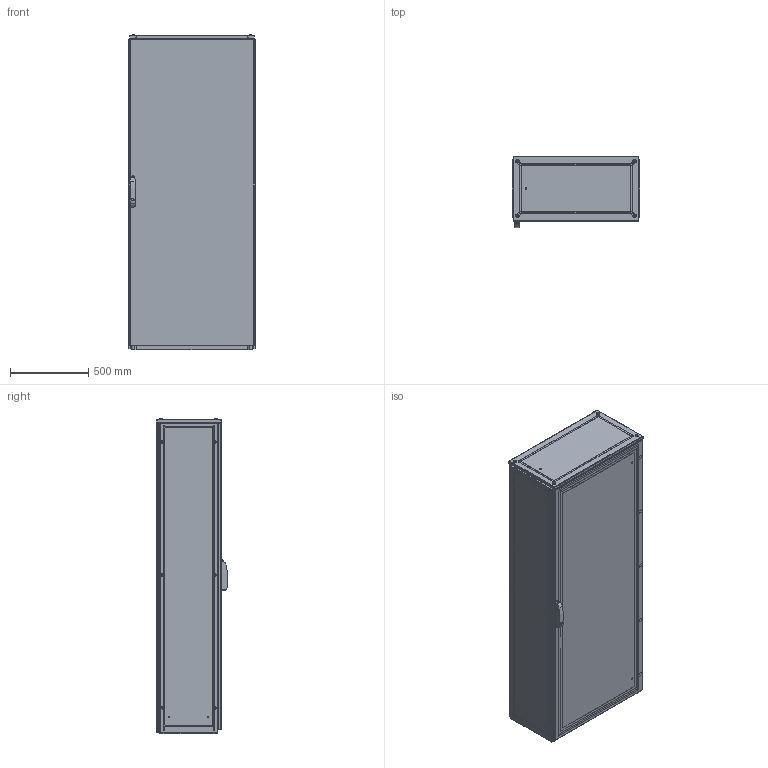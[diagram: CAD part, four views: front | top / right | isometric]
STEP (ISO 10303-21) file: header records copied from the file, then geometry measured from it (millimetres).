
FILE_DESCRIPTION(/* description */ ('STEP AP214'),/* implementation_level */ '2;1');
FILE_NAME(/* name */ 'ENUX082004PR-LOD350',/* time_stamp */ '2025-10-03T09:39:09+02:00',/* author */ ('License CC BY-ND 4.0'),/* organization */ ('CADENAS'),/* preprocessor_version */ 'ST-DEVELOPER v19.3',/* originating_system */ 'PARTsolutions',/* authorisation */ ' ');
FILE_SCHEMA (('AUTOMOTIVE_DESIGN {1 0 10303 214 3 1 1}'));
Length unit declared in the file: millimetre
Products named in the file (10): ENUX082004PR-LOD350; ENUX082004PR-LOD350_CON; ENUX082004PR-LOD350_floor1; ENUX082004PR-LOD350_floor2; Screw M12x30 architecture 350; ENUX082004PR-LOD350_side; ENUX082004PR-LOD350_top; ENUX082004PR-LOD350_back_door; ENUX082004PR-LOD350_door; ENUX082004PR-LOD350_handle
Assembly tree (14 placements, depth 2):
  ENUX082004PR-LOD350
    ENUX082004PR-LOD350_CON
    ENUX082004PR-LOD350_floor1  x2
    ENUX082004PR-LOD350_floor2
    Screw M12x30 architecture 350  x4
    ENUX082004PR-LOD350_side  x2
    ENUX082004PR-LOD350_top
    ENUX082004PR-LOD350_back_door
    ENUX082004PR-LOD350_door
    ENUX082004PR-LOD350_handle
Bounding box: 812 x 457 x 2014.1 mm (x, y, z)
Volume: 19220328.7 mm3; surface area: 16569088.7 mm2
Topology: 14 solids, 14 shells, 1748 faces, 4931 edges, 3220 vertices
Faces by surface type: plane 848, cylinder 735, cone 77, torus 72, sphere 16
Full cylindrical faces by diameter (mm): 4.5 x144, 6 x14, 6.8 x8, 9 x9, 12 x16, 13 x4, 18 x1, 21 x4
Entity records: 48907 total; most frequent: DIRECTION 8469, CARTESIAN_POINT 8461, ORIENTED_EDGE 7944, EDGE_CURVE 3972, AXIS2_PLACEMENT_3D 3030, VERTEX_POINT 2781, LINE 2409, VECTOR 2409
